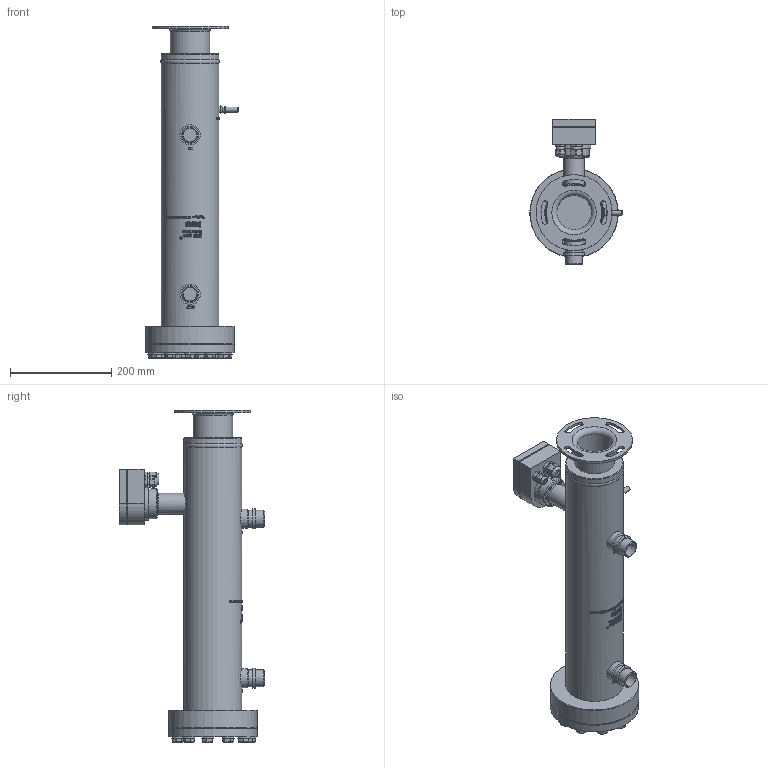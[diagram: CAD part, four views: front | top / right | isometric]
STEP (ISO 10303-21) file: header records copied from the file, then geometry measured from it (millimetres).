
FILE_DESCRIPTION(/* description */ (''),/* implementation_level */ '2;1');
FILE_NAME(/* name */ 'C:\Users\husser\Desktop\BOS4-CDH-1AFO_AG-Kunde.stp',/* time_stamp */ '2024-02-19T08:47:51+01:00',/* author */ ('Husser'),/* organization */ (''),/* preprocessor_version */ 'ST-DEVELOPER v18.1',/* originating_system */ 'Autodesk Inventor 2021',/* authorisation */ '');
FILE_SCHEMA (('AUTOMOTIVE_DESIGN { 1 0 10303 214 3 1 1 }'));
Products named in the file (1): BOS4-CDH-1AFO_AG-Kunde
Bounding box: 182.65 x 286.8 x 656.2 mm (x, y, z)
Volume: 7590329.8 mm3; surface area: 404050.9 mm2
Topology: 1 solids, 21 shells, 1638 faces, 4181 edges, 2754 vertices
Faces by surface type: plane 681, bspline 617, cylinder 232, cone 96, torus 12
Full cylindrical faces by diameter (mm): 5.9 x1, 6.2 x1, 10 x3, 11.053 x11, 13 x11, 13.5 x1, 14 x1, 15 x1, 16 x1, 17.2 x11, 20 x1, 24 x11, 26.5 x2, 28.9 x2, 33.7 x4, 38 x2, 40 x2, 41 x1, 60 x1, 60.4 x1, 66 x1, 68 x1, 78 x1, 114.3 x2, 150 x1, 171.5 x1, 175 x2
Entity records: 63567 total; most frequent: CARTESIAN_POINT 27339, ORIENTED_EDGE 8356, DIRECTION 5573, EDGE_CURVE 4178, VERTEX_POINT 2754, LINE 1953, VECTOR 1953, EDGE_LOOP 1840
